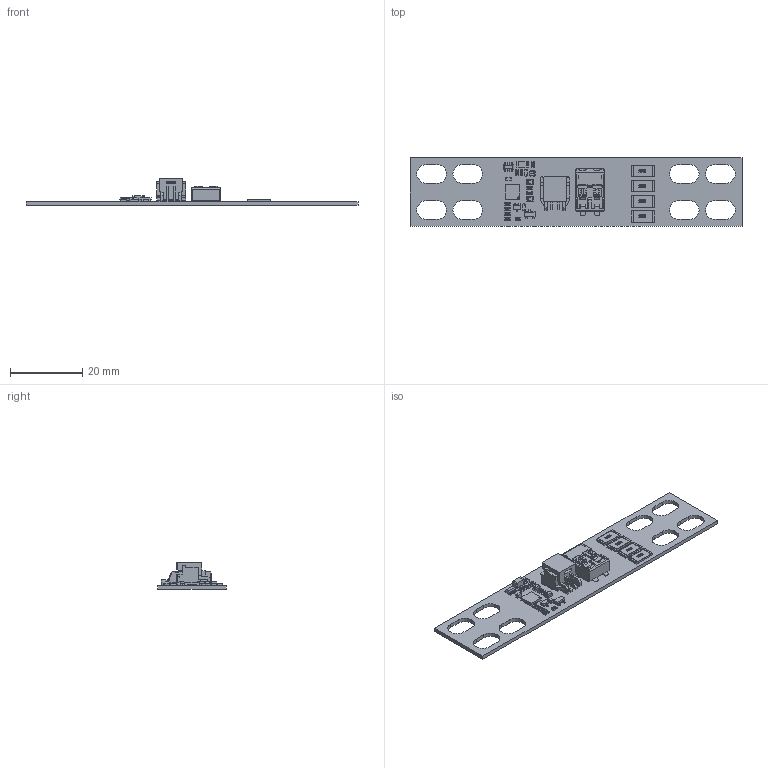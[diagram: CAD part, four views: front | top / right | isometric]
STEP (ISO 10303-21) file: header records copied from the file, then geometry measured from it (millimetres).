
FILE_DESCRIPTION(('Open CASCADE Model'),'2;1');
FILE_NAME('Open CASCADE Shape Model','2019-08-23T12:00:32',('Author'),( 'Open CASCADE'),'Open CASCADE STEP processor 6.8','Open CASCADE 6.8' ,'Unknown');
FILE_SCHEMA(('AUTOMOTIVE_DESIGN { 1 0 10303 214 1 1 1 1 }'));
Length unit declared in the file: millimetre
Products named in the file (46): PCB; Board; C4; C0603; R10; RES0603; U1; QFN20-4x4; C1; C1206; C2; C3; D1; SOT665; Q2; SOT23; R2; R3; R4; R5; R6; R7; R9; R14; RES2512; R13; R12; R11; Q1; SOT323_(sc70); D2; LED_Red_0805; D3; LED_Green_0805; U2; SOT23-6; R1; R8; P2; 5023520200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
Assembly tree (59 placements, depth 4):
  PCB
    Board
    C4
      C0603
    R10
      RES0603
    U1
      QFN20-4x4
    C1
      C1206
    C2
      C0603
    C3
      C0603
    D1
      SOT665
    Q2
      SOT23
    R2
      RES0603
    R3
      RES0603
    R4
      RES0603
    R5
      RES0603
    R6
      RES0603
    R7
      RES0603
    R9
      RES0603
    R14
      RES2512
    R13
      RES2512
    R12
      RES2512
    R11
      RES2512
    Q1
      SOT323_(sc70)
    D2
      LED_Red_0805
    D3
      LED_Green_0805
    U2
      SOT23-6
    R1
      RES0603
    R8
      RES0603
    P2
      5023520200
        Open CASCADE STEP translator 6.8 1.27.1.1
        Open CASCADE STEP translator 6.8 1.27.1.2
    P1
      1041880210
        Open CASCADE STEP translator 6.8 1.28.1.1
        Open CASCADE STEP translator 6.8 1.28.1.2
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Bounding box: 92 x 19 x 7.45 mm (x, y, z)
Volume: 2202.6 mm3; surface area: 4959.2 mm2
Topology: 78 solids, 78 shells, 3532 faces, 8981 edges, 5526 vertices
Faces by surface type: plane 1948, cylinder 822, bspline 502, sphere 232, torus 20, cone 8
Entity records: 60964 total; most frequent: CARTESIAN_POINT 16962, ORIENTED_EDGE 8028, DIRECTION 7211, EDGE_CURVE 4014, LINE 2985, VECTOR 2985, VERTEX_POINT 2580, AXIS2_PLACEMENT_3D 2113
